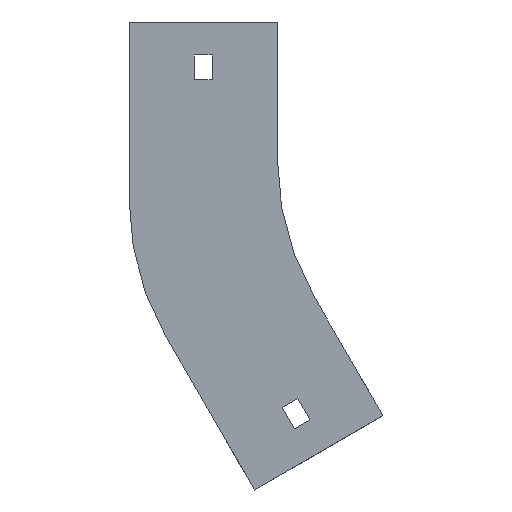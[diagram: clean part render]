
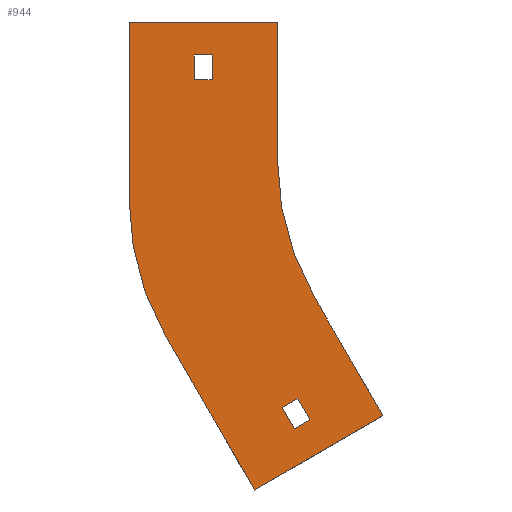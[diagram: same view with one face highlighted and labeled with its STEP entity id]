
A CAD part, front view. The second image highlights one B-rep face of the part: STEP entity #944.
In plain terms, the highlighted planar face has unit normal (0, -1, 0).
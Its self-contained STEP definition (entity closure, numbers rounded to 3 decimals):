
#5 = CARTESIAN_POINT ( 'NONE',  ( -98.3, 0., -90.24 ) ) ;
#16 = VERTEX_POINT ( 'NONE', #1095 ) ;
#21 = VECTOR ( 'NONE', #1192, 1000. ) ;
#44 = FACE_BOUND ( 'NONE', #1147, .T. ) ;
#53 = CARTESIAN_POINT ( 'NONE',  ( 0., 0., 0. ) ) ;
#54 = VERTEX_POINT ( 'NONE', #433 ) ;
#62 = DIRECTION ( 'NONE',  ( -0.866, 0., -0.5 ) ) ;
#108 = EDGE_CURVE ( 'NONE', #981, #841, #1396, .T. ) ;
#123 = LINE ( 'NONE', #565, #883 ) ;
#127 = EDGE_CURVE ( 'NONE', #1259, #737, #123, .T. ) ;
#138 = VECTOR ( 'NONE', #350, 1000. ) ;
#172 = VERTEX_POINT ( 'NONE', #921 ) ;
#186 = CARTESIAN_POINT ( 'NONE',  ( -100., 0., 0. ) ) ;
#205 = CARTESIAN_POINT ( 'NONE',  ( -93.8, 0., -98.034 ) ) ;
#206 = CARTESIAN_POINT ( 'NONE',  ( -108.368, 0., -120.301 ) ) ;
#222 = DIRECTION ( 'NONE',  ( 0., 0., -1. ) ) ;
#241 = CARTESIAN_POINT ( 'NONE',  ( -54., 0., -14.469 ) ) ;
#244 = VERTEX_POINT ( 'NONE', #1123 ) ;
#253 = EDGE_CURVE ( 'NONE', #800, #244, #905, .T. ) ;
#279 = EDGE_CURVE ( 'NONE', #244, #960, #368, .T. ) ;
#281 = DIRECTION ( 'NONE',  ( 1., 0., 0. ) ) ;
#310 = LINE ( 'NONE', #638, #1021 ) ;
#311 = LINE ( 'NONE', #1080, #21 ) ;
#316 = EDGE_CURVE ( 'NONE', #907, #952, #735, .T. ) ;
#322 = CARTESIAN_POINT ( 'NONE',  ( 0., 0., 0. ) ) ;
#334 = VERTEX_POINT ( 'NONE', #1402 ) ;
#338 = ORIENTED_EDGE ( 'NONE', *, *, #1052, .F. ) ;
#350 = DIRECTION ( 'NONE',  ( -1., 0., 0. ) ) ;
#368 = LINE ( 'NONE', #375, #1126 ) ;
#375 = CARTESIAN_POINT ( 'NONE',  ( -130.25, 0., 29. ) ) ;
#381 = CARTESIAN_POINT ( 'NONE',  ( -154., 0., 50. ) ) ;
#385 = DIRECTION ( 'NONE',  ( 0., -1., 0. ) ) ;
#430 = VERTEX_POINT ( 'NONE', #206 ) ;
#431 = EDGE_CURVE ( 'NONE', #952, #172, #311, .T. ) ;
#433 = CARTESIAN_POINT ( 'NONE',  ( -140.603, 0., -64.469 ) ) ;
#444 = CARTESIAN_POINT ( 'NONE',  ( -86.603, 0., -50. ) ) ;
#460 = VECTOR ( 'NONE', #838, 1000. ) ;
#467 = ORIENTED_EDGE ( 'NONE', *, *, #829, .F. ) ;
#482 = EDGE_CURVE ( 'NONE', #54, #907, #1014, .T. ) ;
#515 = ORIENTED_EDGE ( 'NONE', *, *, #1306, .F. ) ;
#522 = DIRECTION ( 'NONE',  ( -0.866, 0., -0.5 ) ) ;
#523 = DIRECTION ( 'NONE',  ( -0.5, 0., 0.866 ) ) ;
#539 = LINE ( 'NONE', #1294, #670 ) ;
#565 = CARTESIAN_POINT ( 'NONE',  ( -93.8, 0., -98.034 ) ) ;
#624 = LINE ( 'NONE', #1058, #790 ) ;
#630 = EDGE_CURVE ( 'NONE', #172, #981, #1358, .T. ) ;
#631 = ORIENTED_EDGE ( 'NONE', *, *, #127, .F. ) ;
#638 = CARTESIAN_POINT ( 'NONE',  ( -92.671, 0., -86.99 ) ) ;
#643 = CARTESIAN_POINT ( 'NONE',  ( -123.75, 0., 29. ) ) ;
#663 = ORIENTED_EDGE ( 'NONE', *, *, #431, .F. ) ;
#670 = VECTOR ( 'NONE', #1196, 1000. ) ;
#691 = DIRECTION ( 'NONE',  ( 0., 1., 0. ) ) ;
#712 = VERTEX_POINT ( 'NONE', #1156 ) ;
#718 = FACE_OUTER_BOUND ( 'NONE', #1035, .T. ) ;
#720 = ORIENTED_EDGE ( 'NONE', *, *, #279, .T. ) ;
#735 = LINE ( 'NONE', #1381, #971 ) ;
#737 = VERTEX_POINT ( 'NONE', #1041 ) ;
#746 = DIRECTION ( 'NONE',  ( -0.5, 0., 0.866 ) ) ;
#755 = ORIENTED_EDGE ( 'NONE', *, *, #630, .F. ) ;
#766 = DIRECTION ( 'NONE',  ( 0.866, 0., 0.5 ) ) ;
#767 = EDGE_CURVE ( 'NONE', #712, #430, #1301, .T. ) ;
#790 = VECTOR ( 'NONE', #844, 1000. ) ;
#800 = VERTEX_POINT ( 'NONE', #643 ) ;
#801 = AXIS2_PLACEMENT_3D ( 'NONE', #322, #1109, #222 ) ;
#804 = ORIENTED_EDGE ( 'NONE', *, *, #1102, .F. ) ;
#818 = DIRECTION ( 'NONE',  ( 0.5, 0., -0.866 ) ) ;
#821 = CARTESIAN_POINT ( 'NONE',  ( -154., 0., -14.469 ) ) ;
#825 = LINE ( 'NONE', #1335, #974 ) ;
#829 = EDGE_CURVE ( 'NONE', #841, #712, #539, .T. ) ;
#838 = DIRECTION ( 'NONE',  ( 0., 0., -1. ) ) ;
#839 = LINE ( 'NONE', #1263, #1260 ) ;
#840 = VERTEX_POINT ( 'NONE', #5 ) ;
#841 = VERTEX_POINT ( 'NONE', #444 ) ;
#844 = DIRECTION ( 'NONE',  ( 0., 0., -1. ) ) ;
#863 = LINE ( 'NONE', #1162, #1327 ) ;
#883 = VECTOR ( 'NONE', #766, 1000. ) ;
#905 = LINE ( 'NONE', #1331, #138 ) ;
#907 = VERTEX_POINT ( 'NONE', #821 ) ;
#909 = DIRECTION ( 'NONE',  ( 0., 0., 1. ) ) ;
#915 = ORIENTED_EDGE ( 'NONE', *, *, #1127, .T. ) ;
#921 = CARTESIAN_POINT ( 'NONE',  ( -100., 0., 50. ) ) ;
#931 = DIRECTION ( 'NONE',  ( 0., 0., 1. ) ) ;
#944 = ADVANCED_FACE ( 'NONE', ( #44, #718, #1132 ), #1362, .T. ) ;
#951 = ORIENTED_EDGE ( 'NONE', *, *, #482, .F. ) ;
#952 = VERTEX_POINT ( 'NONE', #381 ) ;
#960 = VERTEX_POINT ( 'NONE', #1026 ) ;
#970 = CARTESIAN_POINT ( 'NONE',  ( -108.368, 0., -120.301 ) ) ;
#971 = VECTOR ( 'NONE', #1053, 1000. ) ;
#974 = VECTOR ( 'NONE', #818, 1000. ) ;
#981 = VERTEX_POINT ( 'NONE', #186 ) ;
#992 = VECTOR ( 'NONE', #746, 1000. ) ;
#1012 = AXIS2_PLACEMENT_3D ( 'NONE', #53, #385, #1033 ) ;
#1014 = CIRCLE ( 'NONE', #1366, 100. ) ;
#1021 = VECTOR ( 'NONE', #523, 1000. ) ;
#1026 = CARTESIAN_POINT ( 'NONE',  ( -130.25, 0., 38. ) ) ;
#1028 = EDGE_CURVE ( 'NONE', #737, #16, #310, .T. ) ;
#1033 = DIRECTION ( 'NONE',  ( 0., 0., -1. ) ) ;
#1035 = EDGE_LOOP ( 'NONE', ( #663, #1160, #951, #338, #1363, #467, #1385, #755 ) ) ;
#1041 = CARTESIAN_POINT ( 'NONE',  ( -88.171, 0., -94.784 ) ) ;
#1052 = EDGE_CURVE ( 'NONE', #430, #54, #1284, .T. ) ;
#1053 = DIRECTION ( 'NONE',  ( 0., 0., 1. ) ) ;
#1055 = VECTOR ( 'NONE', #522, 1000. ) ;
#1058 = CARTESIAN_POINT ( 'NONE',  ( -123.75, 0., 29. ) ) ;
#1062 = CARTESIAN_POINT ( 'NONE',  ( -61.603, 0., -93.301 ) ) ;
#1080 = CARTESIAN_POINT ( 'NONE',  ( -154., 0., 50. ) ) ;
#1095 = CARTESIAN_POINT ( 'NONE',  ( -92.671, 0., -86.99 ) ) ;
#1102 = EDGE_CURVE ( 'NONE', #16, #840, #863, .T. ) ;
#1109 = DIRECTION ( 'NONE',  ( 0., -1., 0. ) ) ;
#1118 = ORIENTED_EDGE ( 'NONE', *, *, #253, .T. ) ;
#1123 = CARTESIAN_POINT ( 'NONE',  ( -130.25, 0., 29. ) ) ;
#1126 = VECTOR ( 'NONE', #931, 1000. ) ;
#1127 = EDGE_CURVE ( 'NONE', #960, #334, #839, .T. ) ;
#1132 = FACE_BOUND ( 'NONE', #1225, .T. ) ;
#1141 = EDGE_CURVE ( 'NONE', #334, #800, #624, .T. ) ;
#1147 = EDGE_LOOP ( 'NONE', ( #720, #915, #1230, #1118 ) ) ;
#1156 = CARTESIAN_POINT ( 'NONE',  ( -61.603, 0., -93.301 ) ) ;
#1160 = ORIENTED_EDGE ( 'NONE', *, *, #316, .F. ) ;
#1162 = CARTESIAN_POINT ( 'NONE',  ( -98.3, 0., -90.24 ) ) ;
#1192 = DIRECTION ( 'NONE',  ( 1., 0., 0. ) ) ;
#1196 = DIRECTION ( 'NONE',  ( 0.5, 0., -0.866 ) ) ;
#1225 = EDGE_LOOP ( 'NONE', ( #631, #515, #804, #1241 ) ) ;
#1230 = ORIENTED_EDGE ( 'NONE', *, *, #1141, .T. ) ;
#1241 = ORIENTED_EDGE ( 'NONE', *, *, #1028, .F. ) ;
#1259 = VERTEX_POINT ( 'NONE', #205 ) ;
#1260 = VECTOR ( 'NONE', #281, 1000. ) ;
#1263 = CARTESIAN_POINT ( 'NONE',  ( -130.25, 0., 38. ) ) ;
#1269 = CARTESIAN_POINT ( 'NONE',  ( -100., 0., 50. ) ) ;
#1284 = LINE ( 'NONE', #970, #992 ) ;
#1294 = CARTESIAN_POINT ( 'NONE',  ( -86.603, 0., -50. ) ) ;
#1301 = LINE ( 'NONE', #1062, #1055 ) ;
#1306 = EDGE_CURVE ( 'NONE', #840, #1259, #825, .T. ) ;
#1327 = VECTOR ( 'NONE', #62, 1000. ) ;
#1331 = CARTESIAN_POINT ( 'NONE',  ( -130.25, 0., 29. ) ) ;
#1335 = CARTESIAN_POINT ( 'NONE',  ( -98.3, 0., -90.24 ) ) ;
#1358 = LINE ( 'NONE', #1269, #460 ) ;
#1362 = PLANE ( 'NONE',  #1012 ) ;
#1363 = ORIENTED_EDGE ( 'NONE', *, *, #767, .F. ) ;
#1366 = AXIS2_PLACEMENT_3D ( 'NONE', #241, #691, #909 ) ;
#1381 = CARTESIAN_POINT ( 'NONE',  ( -154., 0., -14.469 ) ) ;
#1385 = ORIENTED_EDGE ( 'NONE', *, *, #108, .F. ) ;
#1396 = CIRCLE ( 'NONE', #801, 100. ) ;
#1402 = CARTESIAN_POINT ( 'NONE',  ( -123.75, 0., 38. ) ) ;
